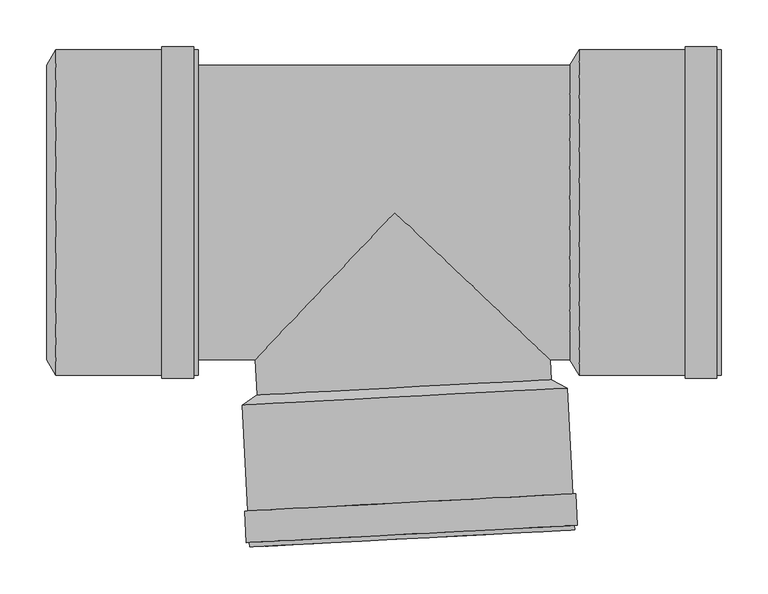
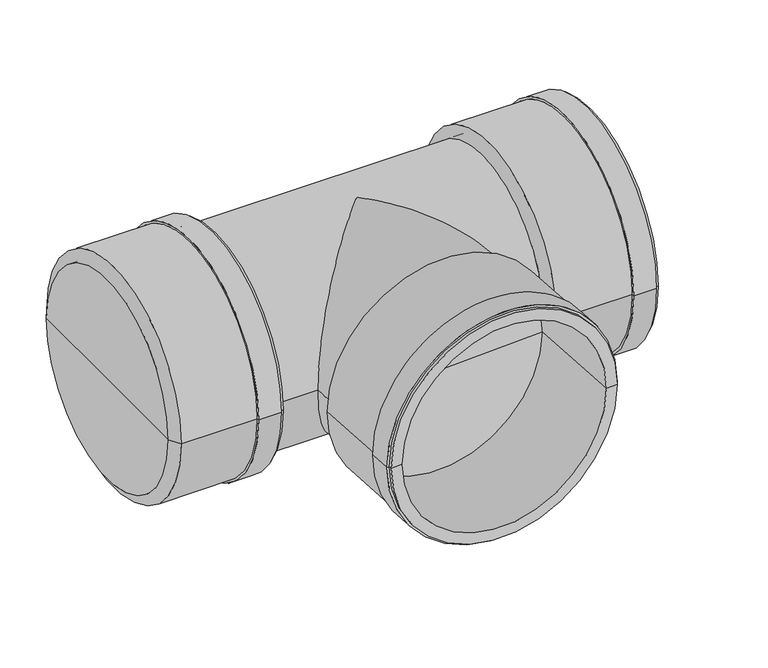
"""IFC4 building model written with IfcOpenShell, lengths in millimetres: pipe fitting geometry, pf_KGEA : pf_KGEA."""

import ifcopenshell
import ifcopenshell.guid

model = None  # the IFC model being written
_history = None  # IfcOwnerHistory: only IFC2X3 demands one
_inside = {}  # id of a spatial element -> (the spatial element, [elements in it])
_under = {}  # id of a project, library or spatial element -> (it, [spatial elements below it])
_declared = {}  # id of a project -> (the project, [libraries it declares])
_typed = {}  # id of a type object -> (the type object, [elements of that type])
_made_of = {}  # id of a material, layer set ... -> (it, [elements and type objects made of it])


def new_model(schema):
    """Start an empty IFC model of exactly this schema.

    Asked for "IFC4X3", IfcOpenShell would pick the latest addendum, in which some entities
    have other attributes; the version numbers below select the first issue.
    IFC2X3 requires an IfcOwnerHistory on every rooted entity: one is made here for all.
    """
    global model, _history
    if schema == "IFC4X3":
        model = ifcopenshell.file(schema_version=(4, 3, 0, 0))
    else:
        model = ifcopenshell.file(schema=schema)
    _inside.clear()
    _under.clear()
    _declared.clear()
    _typed.clear()
    _made_of.clear()
    _history = None
    if model.schema == "IFC2X3":
        org = make("IfcOrganization", Name="unknown")
        user = make(
            "IfcPersonAndOrganization",
            ThePerson=make("IfcPerson", FamilyName="unknown"),
            TheOrganization=org,
        )
        app = make(
            "IfcApplication",
            ApplicationDeveloper=org,
            Version="unknown",
            ApplicationFullName="unknown",
            ApplicationIdentifier="unknown",
        )
        _history = make(
            "IfcOwnerHistory",
            OwningUser=user,
            OwningApplication=app,
            ChangeAction="ADDED",
            CreationDate=0,
        )
    return model


def make(cls, **values):
    """One entity of the class cls with the attributes given. An attribute that is None is left unset."""
    return model.create_entity(
        cls, **{name: value for name, value in values.items() if value is not None}
    )


def rooted(cls, **values):
    """An entity with a GlobalId (a new one), such as an element, a storey or a relation."""
    return make(cls, GlobalId=ifcopenshell.guid.new(), OwnerHistory=_history, **values)


def si_unit(unit_type, name, prefix=None):
    """IfcSIUnit, for example si_unit("LENGTHUNIT", "METRE", prefix="MILLI")."""
    return make("IfcSIUnit", UnitType=unit_type, Prefix=prefix, Name=name)


def assignment(units):
    """IfcUnitAssignment: the units of a project."""
    return None if units is None else make("IfcUnitAssignment", Units=units)


def point(xyz):
    """IfcCartesianPoint."""
    return None if xyz is None else make("IfcCartesianPoint", Coordinates=xyz)


def direction(xyz):
    """IfcDirection."""
    return None if xyz is None else make("IfcDirection", DirectionRatios=xyz)


def frame(location, z_axis=None, x_axis=None):
    """IfcAxis2Placement3D, a coordinate frame: its origin and axes. An axis left out is left unset."""
    return make(
        "IfcAxis2Placement3D",
        Location=point(location),
        Axis=direction(z_axis),
        RefDirection=direction(x_axis),
    )


def origin():
    """The frame at (0, 0, 0) with its axes left unset."""
    return frame((0.0, 0.0, 0.0))


def place(relative_to, where):
    """IfcLocalPlacement: puts the frame where relative to a parent placement (None: the world)."""
    return make(
        "IfcLocalPlacement", PlacementRelTo=relative_to, RelativePlacement=where
    )


def context(
    kind, dimensions, precision=None, world=None, true_north=None, identifier=None
):
    """IfcGeometricRepresentationContext, for example the 3D "Model" context."""
    return make(
        "IfcGeometricRepresentationContext",
        ContextIdentifier=identifier,
        ContextType=kind,
        CoordinateSpaceDimension=dimensions,
        Precision=precision,
        WorldCoordinateSystem=world,
        TrueNorth=true_north,
    )


def project(units=None, contexts=None):
    """IfcProject with its units and contexts."""
    return rooted(
        "IfcProject",
        Name="project",
        RepresentationContexts=contexts,
        UnitsInContext=assignment(units),
    )


def spatial(cls, under=None, at=None, **own):
    """A site, building, storey or space (cls), placed at a placement, below another one or the project."""
    s = rooted(cls, ObjectPlacement=at, **own)
    if under is not None:
        _under.setdefault(under.id(), (under, []))[1].append(s)
    return s


def polyline(points):
    """IfcPolyline through the points."""
    return make("IfcPolyline", Points=[point(p) for p in points])


def circle_curve(where, radius):
    """IfcCircle in the frame where."""
    return make("IfcCircle", Position=where, Radius=radius)


def ellipse_curve(where, semi_axis1, semi_axis2):
    """IfcEllipse in the frame where."""
    return make(
        "IfcEllipse", Position=where, SemiAxis1=semi_axis1, SemiAxis2=semi_axis2
    )


def shape(context_of_items, identifier, shape_type, items):
    """IfcShapeRepresentation: the items that make up one representation, for example the "Body"."""
    return make(
        "IfcShapeRepresentation",
        ContextOfItems=context_of_items,
        RepresentationIdentifier=identifier,
        RepresentationType=shape_type,
        Items=items,
    )


def source(mapping_origin, context_of_items, identifier, shape_type, items):
    """IfcRepresentationMap: a shape defined once, which mapped items show again and again."""
    return make(
        "IfcRepresentationMap",
        MappingOrigin=mapping_origin,
        MappedRepresentation=shape(context_of_items, identifier, shape_type, items),
    )


def transform(
    local_origin,
    x_axis=None,
    y_axis=None,
    z_axis=None,
    scale=None,
    scale2=None,
    scale3=None,
    uniform=True,
):
    """IfcCartesianTransformationOperator3D, or its non-uniform kind. x_axis, y_axis, z_axis: its Axis1, 2, 3."""
    if uniform:
        return make(
            "IfcCartesianTransformationOperator3D",
            Axis1=direction(x_axis),
            Axis2=direction(y_axis),
            LocalOrigin=point(local_origin),
            Scale=scale,
            Axis3=direction(z_axis),
        )
    return make(
        "IfcCartesianTransformationOperator3DnonUniform",
        Axis1=direction(x_axis),
        Axis2=direction(y_axis),
        LocalOrigin=point(local_origin),
        Scale=scale,
        Axis3=direction(z_axis),
        Scale2=scale2,
        Scale3=scale3,
    )


def mapped(mapping_source, mapping_target):
    """IfcMappedItem: shows the shape of a source again, moved by a transform."""
    return make(
        "IfcMappedItem", MappingSource=mapping_source, MappingTarget=mapping_target
    )


def made_of(thing, what):
    """Note that an element or type object is made of a material, layer set ...; save() writes the relation."""
    if what is not None:
        _made_of.setdefault(what.id(), (what, []))[1].append(thing)
    return thing


def element(
    cls,
    number,
    at=None,
    inside=None,
    cuts=None,
    type_object=None,
    material=None,
    context=None,
    identifier="Body",
    shape_type=None,
    held_by="IfcProductDefinitionShape",
    body=None,
    shapes=None,
    **own,
):
    """One element of the class cls, such as IfcWall. Its Tag is "e" and its number.

    at: its placement. inside: the storey or other place that contains it. cuts: it is an
    opening in that element (IfcRelVoidsElement). A single representation is given by context,
    identifier, shape_type and body (its items); several are given by shapes. held_by: the class
    of the entity that holds the representations. save() writes the other relations.
    """
    e = rooted(cls, Tag="e%d" % number, ObjectPlacement=at, **own)
    if body is not None:
        shapes = [shape(context, identifier, shape_type, body)]
    if shapes is not None:
        e.Representation = make(held_by, Representations=shapes)
    if inside is not None:
        _inside.setdefault(inside.id(), (inside, []))[1].append(e)
    if cuts is not None:
        rooted(
            "IfcRelVoidsElement", RelatingBuildingElement=cuts, RelatedOpeningElement=e
        )
    if type_object is not None:
        _typed.setdefault(type_object.id(), (type_object, []))[1].append(e)
    return made_of(e, material)


def aggregate(whole, parts):
    """IfcRelAggregates: a whole, such as a stair, and the parts it consists of."""
    return rooted("IfcRelAggregates", RelatingObject=whole, RelatedObjects=parts)


def save(model, path):
    """Write the relations noted so far, then the file.

    IfcRelAggregates (storeys below a building ...), IfcRelContainedInSpatialStructure (elements
    in a storey), IfcRelDefinesByType, IfcRelAssociatesMaterial and IfcRelDeclares: one each for
    every whole, place, type object, material and project.
    """
    for whole, parts in _under.values():
        aggregate(whole, parts)
    for where, things in _inside.values():
        rooted(
            "IfcRelContainedInSpatialStructure",
            RelatedElements=things,
            RelatingStructure=where,
        )
    for kind, things in _typed.values():
        rooted("IfcRelDefinesByType", RelatedObjects=things, RelatingType=kind)
    for what, things in _made_of.values():
        rooted("IfcRelAssociatesMaterial", RelatedObjects=things, RelatingMaterial=what)
    for by, libraries in _declared.values():
        rooted("IfcRelDeclares", RelatingContext=by, RelatedDefinitions=libraries)
    model.write(path)


def plane_surface(at):
    """IfcPlane: the flat surface through the origin of the frame at, square to its z axis."""
    return make("IfcPlane", Position=at)


def cylinder_surface(at, radius):
    """IfcCylindricalSurface: all points at the distance radius from the z axis of the frame at."""
    return make("IfcCylindricalSurface", Position=at, Radius=radius)


def revolved_surface(curve, axis_point, axis_direction):
    """IfcSurfaceOfRevolution: the curve turned about the line through axis_point along axis_direction."""
    return make(
        "IfcSurfaceOfRevolution",
        SweptCurve=make("IfcArbitraryOpenProfileDef", ProfileType="CURVE", Curve=curve),
        AxisPosition=make("IfcAxis1Placement", Location=point(axis_point), Axis=direction(axis_direction)),
    )


def advanced_brep(points, edges, surfaces, faces):
    """IfcAdvancedBrep: a solid bounded by faces that lie on surfaces and meet in shared edges.

    An edge is (start, end): straight between two places in points (the first is 0);
    or (start, end, curve); or (start, end, curve, False) where it runs against its curve.
    A face is (place in surfaces, loops), or (place, loops, False) where it looks against
    its surface's normal. A loop lists edges by number (the first is 1), with a minus sign
    where the edge is run from its end to its start. The first loop is the outer one.
    """
    corners = [point(p) for p in points]
    vertices = [make("IfcVertexPoint", VertexGeometry=c) for c in corners]
    made = []
    for start, end, *more in edges:
        made.append(
            make(
                "IfcEdgeCurve",
                EdgeStart=vertices[start],
                EdgeEnd=vertices[end],
                EdgeGeometry=more[0] if more else make("IfcPolyline", Points=[corners[start], corners[end]]),
                SameSense=more[1] if len(more) > 1 else True,
            )
        )
    hull = []
    for where, loops, *sense in faces:
        bounds = []
        for j, loop in enumerate(loops):
            ring = [make("IfcOrientedEdge", EdgeElement=made[abs(k) - 1], Orientation=k > 0) for k in loop]
            bounds.append(
                make(
                    "IfcFaceOuterBound" if j == 0 else "IfcFaceBound",
                    Bound=make("IfcEdgeLoop", EdgeList=ring),
                    Orientation=True,
                )
            )
        hull.append(make("IfcAdvancedFace", Bounds=bounds, FaceSurface=surfaces[where], SameSense=sense[0] if sense else True))
    return make("IfcAdvancedBrep", Outer=make("IfcClosedShell", CfsFaces=hull))


def pipe_fitting_9ba251ea(model_context):
    return source(origin(), model_context, "Body", "AdvancedBrep", [
        advanced_brep(
        [(-147.4868607, -195.186362, 0.0), (167.0814427, -178.7005358, 0.0), (184.176819, -187.7181913, 0.0), (-163.545985, -205.9415713, 0.0), (9.797291, -186.9434489, 0.0), (-155.5856861, -357.8331235, 0.0), (192.1371179, -339.6097436, 0.0), (175.5598676, -340.4785204, 0.0), (-139.0084358, -356.9643466, 0.0), (-155.8368987, -353.0397018, 0.0), (191.8859053, -334.8163218, 0.0), (-159.2322391, -353.217644, 0.0), (195.2812457, -334.6383795, 0.0), (-161.006428, -319.3641028, 0.0), (193.5070568, -300.7848383, 0.0), (-157.6110876, -319.1861605, 0.0), (190.1117164, -300.9627806, 0.0), (-146.9687347, -205.0727944, 0.0), (167.5995687, -188.5869682, 0.0), (10.315417, -196.8298813, 0.0)],
        [
            (0, 1, circle_curve(frame((9.797291, -186.9434489, 0.0), z_axis=(0.05233595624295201, -0.9986295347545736, 0.0), x_axis=(0.9986295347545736, 0.05233595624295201, 0.0)), 157.5)),
            (1, 2),
            (2, 3, circle_curve(frame((10.315417, -196.8298813, 0.0), z_axis=(-0.05233595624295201, 0.9986295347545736, 0.0), x_axis=(0.9986295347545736, 0.05233595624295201, 0.0)), 174.1)),
            (3, 0),
            (1, 0, circle_curve(frame((9.797291, -186.9434489, 0.0), z_axis=(0.05233595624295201, -0.9986295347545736, 0.0), x_axis=(0.9986295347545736, 0.05233595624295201, 0.0)), 157.5)),
            (3, 2, circle_curve(frame((10.315417, -196.8298813, 0.0), z_axis=(-0.05233595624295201, 0.9986295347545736, 0.0), x_axis=(0.9986295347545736, 0.05233595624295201, 0.0)), 174.1)),
            (4, 1),
            (0, 4),
            (5, 6, circle_curve(frame((18.2757159, -348.7214335, 0.0), z_axis=(0.05233595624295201, -0.9986295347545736, 0.0), x_axis=(0.9986295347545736, 0.05233595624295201, 0.0)), 174.1)),
            (6, 7),
            (7, 8, circle_curve(frame((18.2757159, -348.7214335, 0.0), z_axis=(-0.05233595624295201, 0.9986295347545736, 0.0), x_axis=(0.9986295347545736, 0.05233595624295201, 0.0)), 157.5)),
            (8, 5),
            (6, 5, circle_curve(frame((18.2757159, -348.7214335, 0.0), z_axis=(0.05233595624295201, -0.9986295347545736, 0.0), x_axis=(0.9986295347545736, 0.05233595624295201, 0.0)), 174.1)),
            (8, 7, circle_curve(frame((18.2757159, -348.7214335, 0.0), z_axis=(-0.05233595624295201, 0.9986295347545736, 0.0), x_axis=(0.9986295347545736, 0.05233595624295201, 0.0)), 157.5)),
            (9, 10, circle_curve(frame((18.0245033, -343.9280118, 0.0), z_axis=(0.05233595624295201, -0.9986295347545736, 0.0), x_axis=(0.9986295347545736, 0.05233595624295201, 0.0)), 174.1)),
            (10, 6),
            (5, 9),
            (10, 9, circle_curve(frame((18.0245033, -343.9280118, 0.0), z_axis=(0.05233595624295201, -0.9986295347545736, 0.0), x_axis=(0.9986295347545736, 0.05233595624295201, 0.0)), 174.1)),
            (11, 12, circle_curve(frame((18.0245033, -343.9280118, 0.0), z_axis=(0.05233595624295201, -0.9986295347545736, 0.0), x_axis=(0.9986295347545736, 0.05233595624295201, 0.0)), 177.5)),
            (12, 10),
            (9, 11),
            (12, 11, circle_curve(frame((18.0245033, -343.9280118, 0.0), z_axis=(0.05233595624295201, -0.9986295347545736, 0.0), x_axis=(0.9986295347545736, 0.05233595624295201, 0.0)), 177.5)),
            (13, 14, circle_curve(frame((16.2503144, -310.0744705, 0.0), z_axis=(0.05233595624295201, -0.9986295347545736, 0.0), x_axis=(0.9986295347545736, 0.05233595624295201, 0.0)), 177.5)),
            (14, 12),
            (11, 13),
            (14, 13, circle_curve(frame((16.2503144, -310.0744705, 0.0), z_axis=(0.05233595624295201, -0.9986295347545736, 0.0), x_axis=(0.9986295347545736, 0.05233595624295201, 0.0)), 177.5)),
            (15, 16, circle_curve(frame((16.2503144, -310.0744705, 0.0), z_axis=(0.05233595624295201, -0.9986295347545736, 0.0), x_axis=(0.9986295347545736, 0.05233595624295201, 0.0)), 174.1)),
            (16, 14),
            (13, 15),
            (16, 15, circle_curve(frame((16.2503144, -310.0744705, 0.0), z_axis=(0.05233595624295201, -0.9986295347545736, 0.0), x_axis=(0.9986295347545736, 0.05233595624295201, 0.0)), 174.1)),
            (2, 16),
            (15, 3),
            (17, 18, circle_curve(frame((10.315417, -196.8298813, 0.0), z_axis=(0.05233595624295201, -0.9986295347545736, 0.0), x_axis=(0.9986295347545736, 0.05233595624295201, 0.0)), 157.5)),
            (18, 19),
            (19, 17),
            (18, 17, circle_curve(frame((10.315417, -196.8298813, 0.0), z_axis=(0.05233595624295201, -0.9986295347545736, 0.0), x_axis=(0.9986295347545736, 0.05233595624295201, 0.0)), 157.5)),
            (7, 18),
            (17, 8),
        ],
        [
            revolved_surface(polyline([(184.176819, -187.7181913, 0.0), (167.0814427, -178.7005358, 0.0)]), (9.797291, -186.9434489, 0.0), (-0.05233595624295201, 0.9986295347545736, 0.0)),
            plane_surface(frame((9.797291, -186.9434489, 0.0), z_axis=(-0.05233595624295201, 0.9986295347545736, 0.0), x_axis=(0.9986295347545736, 0.05233595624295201, 0.0))),
            plane_surface(frame((18.2757159, -348.7214335, 0.0), z_axis=(0.05233595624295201, -0.9986295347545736, 0.0), x_axis=(0.9986295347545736, 0.05233595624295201, 0.0))),
            cylinder_surface(frame((9.797291, -186.9434489, 0.0), z_axis=(-0.05233595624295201, 0.9986295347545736, 0.0), x_axis=(0.9986295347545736, 0.05233595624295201, 0.0)), 174.1),
            plane_surface(frame((18.0245033, -343.9280118, 0.0), z_axis=(0.05233595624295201, -0.9986295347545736, 0.0), x_axis=(0.9986295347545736, 0.05233595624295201, 0.0))),
            cylinder_surface(frame((9.797291, -186.9434489, 0.0), z_axis=(-0.05233595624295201, 0.9986295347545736, 0.0), x_axis=(0.9986295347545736, 0.05233595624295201, 0.0)), 177.5),
            plane_surface(frame((16.2503144, -310.0744705, 0.0), z_axis=(-0.05233595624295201, 0.9986295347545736, 0.0), x_axis=(0.9986295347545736, 0.05233595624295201, 0.0))),
            plane_surface(frame((10.315417, -196.8298813, 0.0), z_axis=(0.05233595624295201, -0.9986295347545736, 0.0), x_axis=(0.9986295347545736, 0.05233595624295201, 0.0))),
            revolved_surface(polyline([(167.59956869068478, -188.58696818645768, 0.0), (175.5598676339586, -340.4785203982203, 0.0)]), (9.797291, -186.9434489, 0.0), (-0.05233595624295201, 0.9986295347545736, 0.0)),
        ],
        [
            (0, [[1, 2, 3, 4]]),
            (0, [[5, -4, 6, -2]]),
            (1, [[7, -1, 8]]),
            (1, [[-8, -5, -7]]),
            (2, [[9, 10, 11, 12]]),
            (2, [[13, -12, 14, -10]]),
            (3, [[15, 16, -9, 17]]),
            (3, [[18, -17, -13, -16]]),
            (4, [[19, 20, -15, 21]]),
            (4, [[22, -21, -18, -20]]),
            (5, [[23, 24, -19, 25]]),
            (5, [[26, -25, -22, -24]]),
            (6, [[27, 28, -23, 29]]),
            (6, [[30, -29, -26, -28]]),
            (3, [[-3, 31, -27, 32]]),
            (3, [[-6, -32, -30, -31]]),
            (7, [[33, 34, 35]]),
            (7, [[36, -35, -34]]),
            (8, [[-11, 37, -33, 38]]),
            (8, [[-14, -38, -36, -37]]),
        ],
    ),
        advanced_brep(
        [(187.2, -157.5, 0.0), (187.2, 157.5, 0.0), (197.1, 174.1, 0.0), (197.1, -174.1, 0.0), (187.2, 0.0, 0.0), (349.2, -174.1, 0.0), (349.2, 174.1, 0.0), (349.2, 157.5, 0.0), (349.2, -157.5, 0.0), (344.4, -174.1, 0.0), (344.4, 174.1, 0.0), (344.4, -177.5, 0.0), (344.4, 177.5, 0.0), (310.5, -177.5, 0.0), (310.5, 177.5, 0.0), (310.5, -174.1, 0.0), (310.5, 174.1, 0.0), (197.1, -157.5, 0.0), (197.1, 157.5, 0.0), (197.1, 0.0, 0.0)],
        [
            (0, 1, circle_curve(frame((187.2, 0.0, 0.0), z_axis=(1.0, 0.0, 0.0), x_axis=(0.0, 1.0, 0.0)), 157.5)),
            (1, 2),
            (2, 3, circle_curve(frame((197.1, 0.0, 0.0), z_axis=(-1.0, 0.0, 0.0), x_axis=(0.0, 1.0, 0.0)), 174.1)),
            (3, 0),
            (1, 0, circle_curve(frame((187.2, 0.0, 0.0), z_axis=(1.0, 0.0, 0.0), x_axis=(0.0, 1.0, 0.0)), 157.5)),
            (3, 2, circle_curve(frame((197.1, 0.0, 0.0), z_axis=(-1.0, 0.0, 0.0), x_axis=(0.0, 1.0, 0.0)), 174.1)),
            (4, 1),
            (0, 4),
            (5, 6, circle_curve(frame((349.2, 0.0, 0.0), z_axis=(1.0, 0.0, 0.0), x_axis=(0.0, 1.0, 0.0)), 174.1)),
            (6, 7),
            (7, 8, circle_curve(frame((349.2, 0.0, 0.0), z_axis=(-1.0, 0.0, 0.0), x_axis=(0.0, 1.0, 0.0)), 157.5)),
            (8, 5),
            (6, 5, circle_curve(frame((349.2, 0.0, 0.0), z_axis=(1.0, 0.0, 0.0), x_axis=(0.0, 1.0, 0.0)), 174.1)),
            (8, 7, circle_curve(frame((349.2, 0.0, 0.0), z_axis=(-1.0, 0.0, 0.0), x_axis=(0.0, 1.0, 0.0)), 157.5)),
            (9, 10, circle_curve(frame((344.4, 0.0, 0.0), z_axis=(1.0, 0.0, 0.0), x_axis=(0.0, 1.0, 0.0)), 174.1)),
            (10, 6),
            (5, 9),
            (10, 9, circle_curve(frame((344.4, 0.0, 0.0), z_axis=(1.0, 0.0, 0.0), x_axis=(0.0, 1.0, 0.0)), 174.1)),
            (11, 12, circle_curve(frame((344.4, 0.0, 0.0), z_axis=(1.0, 0.0, 0.0), x_axis=(0.0, 1.0, 0.0)), 177.5)),
            (12, 10),
            (9, 11),
            (12, 11, circle_curve(frame((344.4, 0.0, 0.0), z_axis=(1.0, 0.0, 0.0), x_axis=(0.0, 1.0, 0.0)), 177.5)),
            (13, 14, circle_curve(frame((310.5, 0.0, 0.0), z_axis=(1.0, 0.0, 0.0), x_axis=(0.0, 1.0, 0.0)), 177.5)),
            (14, 12),
            (11, 13),
            (14, 13, circle_curve(frame((310.5, 0.0, 0.0), z_axis=(1.0, 0.0, 0.0), x_axis=(0.0, 1.0, 0.0)), 177.5)),
            (15, 16, circle_curve(frame((310.5, 0.0, 0.0), z_axis=(1.0, 0.0, 0.0), x_axis=(0.0, 1.0, 0.0)), 174.1)),
            (16, 14),
            (13, 15),
            (16, 15, circle_curve(frame((310.5, 0.0, 0.0), z_axis=(1.0, 0.0, 0.0), x_axis=(0.0, 1.0, 0.0)), 174.1)),
            (2, 16),
            (15, 3),
            (17, 18, circle_curve(frame((197.1, 0.0, 0.0), z_axis=(1.0, 0.0, 0.0), x_axis=(0.0, 1.0, 0.0)), 157.5)),
            (18, 19),
            (19, 17),
            (18, 17, circle_curve(frame((197.1, 0.0, 0.0), z_axis=(1.0, 0.0, 0.0), x_axis=(0.0, 1.0, 0.0)), 157.5)),
            (7, 18),
            (17, 8),
        ],
        [
            revolved_surface(polyline([(197.1, 174.1, 0.0), (187.2, 157.5, 0.0)]), (187.2, 0.0, 0.0), (-1.0, 0.0, 0.0)),
            plane_surface(frame((187.2, 0.0, 0.0), z_axis=(-1.0, 0.0, 0.0), x_axis=(0.0, 1.0, 0.0))),
            plane_surface(frame((349.2, 0.0, 0.0), z_axis=(1.0, 0.0, 0.0), x_axis=(0.0, 1.0, 0.0))),
            cylinder_surface(frame((187.2, 0.0, 0.0), z_axis=(-1.0, 0.0, 0.0), x_axis=(0.0, 1.0, 0.0)), 174.1),
            plane_surface(frame((344.4, 0.0, 0.0), z_axis=(1.0, 0.0, 0.0), x_axis=(0.0, 1.0, 0.0))),
            cylinder_surface(frame((187.2, 0.0, 0.0), z_axis=(-1.0, 0.0, 0.0), x_axis=(0.0, 1.0, 0.0)), 177.5),
            plane_surface(frame((310.5, 0.0, 0.0), z_axis=(-1.0, 0.0, 0.0), x_axis=(0.0, 1.0, 0.0))),
            plane_surface(frame((197.1, 0.0, 0.0), z_axis=(1.0, 0.0, 0.0), x_axis=(0.0, 1.0, 0.0))),
            revolved_surface(polyline([(197.1, 157.5, 0.0), (349.2, 157.5, 0.0)]), (187.2, 0.0, 0.0), (-1.0, 0.0, 0.0)),
        ],
        [
            (0, [[1, 2, 3, 4]]),
            (0, [[5, -4, 6, -2]]),
            (1, [[7, -1, 8]]),
            (1, [[-8, -5, -7]]),
            (2, [[9, 10, 11, 12]]),
            (2, [[13, -12, 14, -10]]),
            (3, [[15, 16, -9, 17]]),
            (3, [[18, -17, -13, -16]]),
            (4, [[19, 20, -15, 21]]),
            (4, [[22, -21, -18, -20]]),
            (5, [[23, 24, -19, 25]]),
            (5, [[26, -25, -22, -24]]),
            (6, [[27, 28, -23, 29]]),
            (6, [[30, -29, -26, -28]]),
            (3, [[-3, 31, -27, 32]]),
            (3, [[-6, -32, -30, -31]]),
            (7, [[33, 34, 35]]),
            (7, [[36, -35, -34]]),
            (8, [[-11, 37, -33, 38]]),
            (8, [[-14, -38, -36, -37]]),
        ],
    ),
        advanced_brep(
        [(-372.7, -157.5, 0.0), (-372.7, 157.5, 0.0), (-362.8, 174.1, 0.0), (-362.8, -174.1, 0.0), (-372.7, 0.0, 0.0), (-210.7, -174.1, 0.0), (-210.7, 174.1, 0.0), (-210.7, 157.5, 0.0), (-210.7, -157.5, 0.0), (-215.5, -174.1, 0.0), (-215.5, 174.1, 0.0), (-215.5, -177.5, 0.0), (-215.5, 177.5, 0.0), (-249.4, -177.5, 0.0), (-249.4, 177.5, 0.0), (-249.4, -174.1, 0.0), (-249.4, 174.1, 0.0), (-362.8, -157.5, 0.0), (-362.8, 157.5, 0.0), (-362.8, 0.0, 0.0)],
        [
            (0, 1, circle_curve(frame((-372.7, 0.0, 0.0), z_axis=(1.0, 0.0, 0.0), x_axis=(0.0, 1.0, 0.0)), 157.5)),
            (1, 2),
            (2, 3, circle_curve(frame((-362.8, 0.0, 0.0), z_axis=(-1.0, 0.0, 0.0), x_axis=(0.0, 1.0, 0.0)), 174.1)),
            (3, 0),
            (1, 0, circle_curve(frame((-372.7, 0.0, 0.0), z_axis=(1.0, 0.0, 0.0), x_axis=(0.0, 1.0, 0.0)), 157.5)),
            (3, 2, circle_curve(frame((-362.8, 0.0, 0.0), z_axis=(-1.0, 0.0, 0.0), x_axis=(0.0, 1.0, 0.0)), 174.1)),
            (4, 1),
            (0, 4),
            (5, 6, circle_curve(frame((-210.7, 0.0, 0.0), z_axis=(1.0, 0.0, 0.0), x_axis=(0.0, 1.0, 0.0)), 174.1)),
            (6, 7),
            (7, 8, circle_curve(frame((-210.7, 0.0, 0.0), z_axis=(-1.0, 0.0, 0.0), x_axis=(0.0, 1.0, 0.0)), 157.5)),
            (8, 5),
            (6, 5, circle_curve(frame((-210.7, 0.0, 0.0), z_axis=(1.0, 0.0, 0.0), x_axis=(0.0, 1.0, 0.0)), 174.1)),
            (8, 7, circle_curve(frame((-210.7, 0.0, 0.0), z_axis=(-1.0, 0.0, 0.0), x_axis=(0.0, 1.0, 0.0)), 157.5)),
            (9, 10, circle_curve(frame((-215.5, 0.0, 0.0), z_axis=(1.0, 0.0, 0.0), x_axis=(0.0, 1.0, 0.0)), 174.1)),
            (10, 6),
            (5, 9),
            (10, 9, circle_curve(frame((-215.5, 0.0, 0.0), z_axis=(1.0, 0.0, 0.0), x_axis=(0.0, 1.0, 0.0)), 174.1)),
            (11, 12, circle_curve(frame((-215.5, 0.0, 0.0), z_axis=(1.0, 0.0, 0.0), x_axis=(0.0, 1.0, 0.0)), 177.5)),
            (12, 10),
            (9, 11),
            (12, 11, circle_curve(frame((-215.5, 0.0, 0.0), z_axis=(1.0, 0.0, 0.0), x_axis=(0.0, 1.0, 0.0)), 177.5)),
            (13, 14, circle_curve(frame((-249.4, 0.0, 0.0), z_axis=(1.0, 0.0, 0.0), x_axis=(0.0, 1.0, 0.0)), 177.5)),
            (14, 12),
            (11, 13),
            (14, 13, circle_curve(frame((-249.4, 0.0, 0.0), z_axis=(1.0, 0.0, 0.0), x_axis=(0.0, 1.0, 0.0)), 177.5)),
            (15, 16, circle_curve(frame((-249.4, 0.0, 0.0), z_axis=(1.0, 0.0, 0.0), x_axis=(0.0, 1.0, 0.0)), 174.1)),
            (16, 14),
            (13, 15),
            (16, 15, circle_curve(frame((-249.4, 0.0, 0.0), z_axis=(1.0, 0.0, 0.0), x_axis=(0.0, 1.0, 0.0)), 174.1)),
            (2, 16),
            (15, 3),
            (17, 18, circle_curve(frame((-362.8, 0.0, 0.0), z_axis=(1.0, 0.0, 0.0), x_axis=(0.0, 1.0, 0.0)), 157.5)),
            (18, 19),
            (19, 17),
            (18, 17, circle_curve(frame((-362.8, 0.0, 0.0), z_axis=(1.0, 0.0, 0.0), x_axis=(0.0, 1.0, 0.0)), 157.5)),
            (7, 18),
            (17, 8),
        ],
        [
            revolved_surface(polyline([(-362.8, 174.1, 0.0), (-372.7, 157.5, 0.0)]), (-372.7, 0.0, 0.0), (-1.0, 0.0, 0.0)),
            plane_surface(frame((-372.7, 0.0, 0.0), z_axis=(-1.0, 0.0, 0.0), x_axis=(0.0, 1.0, 0.0))),
            plane_surface(frame((-210.7, 0.0, 0.0), z_axis=(1.0, 0.0, 0.0), x_axis=(0.0, 1.0, 0.0))),
            cylinder_surface(frame((-372.7, 0.0, 0.0), z_axis=(-1.0, 0.0, 0.0), x_axis=(0.0, 1.0, 0.0)), 174.1),
            plane_surface(frame((-215.5, 0.0, 0.0), z_axis=(1.0, 0.0, 0.0), x_axis=(0.0, 1.0, 0.0))),
            cylinder_surface(frame((-372.7, 0.0, 0.0), z_axis=(-1.0, 0.0, 0.0), x_axis=(0.0, 1.0, 0.0)), 177.5),
            plane_surface(frame((-249.4, 0.0, 0.0), z_axis=(-1.0, 0.0, 0.0), x_axis=(0.0, 1.0, 0.0))),
            plane_surface(frame((-362.8, 0.0, 0.0), z_axis=(1.0, 0.0, 0.0), x_axis=(0.0, 1.0, 0.0))),
            revolved_surface(polyline([(-362.8, 157.5, 0.0), (-210.7, 157.5, 0.0)]), (-372.7, 0.0, 0.0), (-1.0, 0.0, 0.0)),
        ],
        [
            (0, [[1, 2, 3, 4]]),
            (0, [[5, -4, 6, -2]]),
            (1, [[7, -1, 8]]),
            (1, [[-8, -5, -7]]),
            (2, [[9, 10, 11, 12]]),
            (2, [[13, -12, 14, -10]]),
            (3, [[15, 16, -9, 17]]),
            (3, [[18, -17, -13, -16]]),
            (4, [[19, 20, -15, 21]]),
            (4, [[22, -21, -18, -20]]),
            (5, [[23, 24, -19, 25]]),
            (5, [[26, -25, -22, -24]]),
            (6, [[27, 28, -23, 29]]),
            (6, [[30, -29, -26, -28]]),
            (3, [[-3, 31, -27, 32]]),
            (3, [[-6, -32, -30, -31]]),
            (7, [[33, 34, 35]]),
            (7, [[36, -35, -34]]),
            (8, [[-11, 37, -33, 38]]),
            (8, [[-14, -38, -36, -37]]),
        ],
    ),
        advanced_brep(
        [(-362.8, -157.5, 0.0), (-362.8, 157.5, 0.0), (187.2, -157.5, 0.0), (187.2, 157.5, 0.0), (-149.4619193, -157.5, 0.0), (0.0, 0.0, 157.5), (165.9703697, -157.5, 0.0), (0.0, 0.0, -157.5), (-147.4868607, -195.186362, 0.0), (167.0814427, -178.7005358, 0.0)],
        [
            (0, 1, circle_curve(frame((-362.8, 0.0, 0.0), z_axis=(-1.0, 0.0, 0.0), x_axis=(0.0, 1.0, 0.0)), 157.5)),
            (1, 0, circle_curve(frame((-362.8, 0.0, 0.0), z_axis=(-1.0, 0.0, 0.0), x_axis=(0.0, 1.0, 0.0)), 157.5)),
            (2, 3, circle_curve(frame((187.2, 0.0, 0.0), z_axis=(1.0, 0.0, 0.0), x_axis=(0.0, 1.0, 0.0)), 157.5)),
            (3, 2, circle_curve(frame((187.2, 0.0, 0.0), z_axis=(1.0, 0.0, 0.0), x_axis=(0.0, 1.0, 0.0)), 157.5)),
            (0, 4),
            (4, 5, ellipse_curve(frame((0.0, 0.0, 0.0), z_axis=(-0.725374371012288, 0.6883545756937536, 0.0), x_axis=(-0.6883545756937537, -0.725374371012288, 0.0)), 217.1292594, 157.5)),
            (5, 6, ellipse_curve(frame((0.0, 0.0, 0.0), z_axis=(0.6883545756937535, 0.7253743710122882, 0.0), x_axis=(-0.7253743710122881, 0.6883545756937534, 0.0)), 228.8064982, 157.5)),
            (6, 2),
            (3, 1),
            (6, 7, ellipse_curve(frame((0.0, 0.0, 0.0), z_axis=(0.6883545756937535, 0.7253743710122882, 0.0), x_axis=(-0.7253743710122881, 0.6883545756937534, 0.0)), 228.8064982, 157.5)),
            (7, 4, ellipse_curve(frame((0.0, 0.0, 0.0), z_axis=(-0.725374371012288, 0.6883545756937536, 0.0), x_axis=(-0.6883545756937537, -0.725374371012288, 0.0)), 217.1292594, 157.5)),
            (8, 9, circle_curve(frame((9.797291, -186.9434489, 0.0), z_axis=(0.052335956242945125, -0.9986295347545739, 0.0), x_axis=(0.9986295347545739, 0.052335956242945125, 0.0)), 157.5)),
            (9, 8, circle_curve(frame((9.797291, -186.9434489, 0.0), z_axis=(0.052335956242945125, -0.9986295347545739, 0.0), x_axis=(0.9986295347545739, 0.052335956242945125, 0.0)), 157.5)),
            (9, 6),
            (4, 8),
        ],
        [
            plane_surface(frame((-362.8, 0.0, 0.0), z_axis=(-1.0, 0.0, 0.0), x_axis=(0.0, 0.0, 1.0))),
            plane_surface(frame((187.2, 0.0, 0.0), z_axis=(1.0, 0.0, 0.0), x_axis=(0.0, 0.0, 1.0))),
            cylinder_surface(frame((-362.8, 0.0, 0.0), z_axis=(-1.0, 0.0, 0.0), x_axis=(0.0, 1.0, 0.0)), 157.5),
            plane_surface(frame((9.797291, -186.9434489, 0.0), z_axis=(0.05233595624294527, -0.9986295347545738, 0.0), x_axis=(0.0, 0.0, 1.0))),
            cylinder_surface(frame((0.0, 0.0, 0.0), z_axis=(-0.052335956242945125, 0.9986295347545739, 0.0), x_axis=(0.9986295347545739, 0.052335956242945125, 0.0)), 157.5),
        ],
        [
            (0, [[1, 2]]),
            (1, [[3, 4]]),
            (2, [[-1, 5, 6, 7, 8, -4, 9]]),
            (2, [[-2, -9, -3, -8, 10, 11, -5]]),
            (3, [[12, 13]]),
            (4, [[-13, 14, -7, -6, 15]]),
            (4, [[-12, -15, -11, -10, -14]]),
        ],
    ),
    ])


if __name__ == "__main__":
    model = new_model("IFC4")
    model_context = context("Model", 3, world=origin())
    ifc_project = project(units=[si_unit("LENGTHUNIT", "METRE", prefix="MILLI")], contexts=[model_context])
    site = spatial("IfcSite", under=ifc_project)
    building = spatial("IfcBuilding", under=site)
    placement = place(None, origin())
    pipe_fitting_shape = pipe_fitting_9ba251ea(model_context)
    element("IfcPipeFitting", 1, ObjectType="pf_KGEA : pf_KGEA", at=placement, inside=building, context=model_context, shape_type="MappedRepresentation", body=[
        mapped(pipe_fitting_shape, transform((0.0, 0.0, 0.0), x_axis=(1.0, 0.0, 0.0), y_axis=(0.0, 1.0, 0.0), z_axis=(0.0, 0.0, 1.0))),
    ])
    save(model, "model.ifc")
